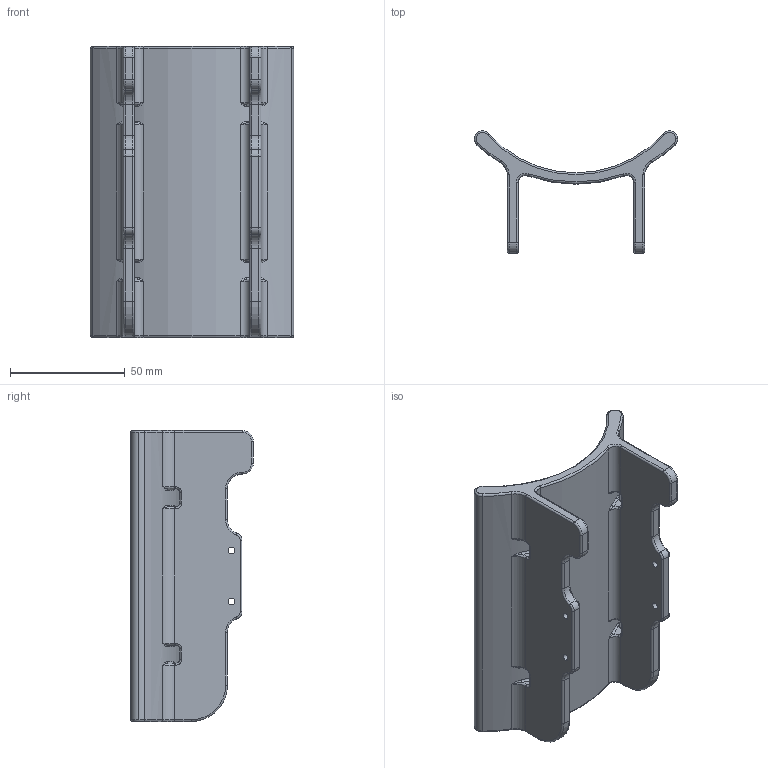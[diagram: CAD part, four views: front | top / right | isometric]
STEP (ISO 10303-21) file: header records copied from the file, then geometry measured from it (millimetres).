
FILE_DESCRIPTION (( 'STEP AP203' ), '1' );
FILE_NAME ('ZtopHose_p02.STEP', '2018-03-23T16:16:20', ( '' ), ( '' ), 'SwSTEP 2.0', 'SolidWorks 2015', '' );
FILE_SCHEMA (( 'CONFIG_CONTROL_DESIGN' ));
Length unit declared in the file: inch
Products named in the file (1): ZtopHose_p02
Bounding box: 88.72 x 53.52 x 127 mm (x, y, z)
Volume: 104611.4 mm3; surface area: 41155.4 mm2
Topology: 1 solids, 1 shells, 239 faces, 585 edges, 326 vertices
Faces by surface type: cylinder 89, torus 86, bspline 40, plane 24
Entity records: 8534 total; most frequent: CARTESIAN_POINT 2999, DIRECTION 1225, ORIENTED_EDGE 1138, EDGE_CURVE 569, AXIS2_PLACEMENT_3D 536, CIRCLE 336, VERTEX_POINT 326, EDGE_LOOP 249
